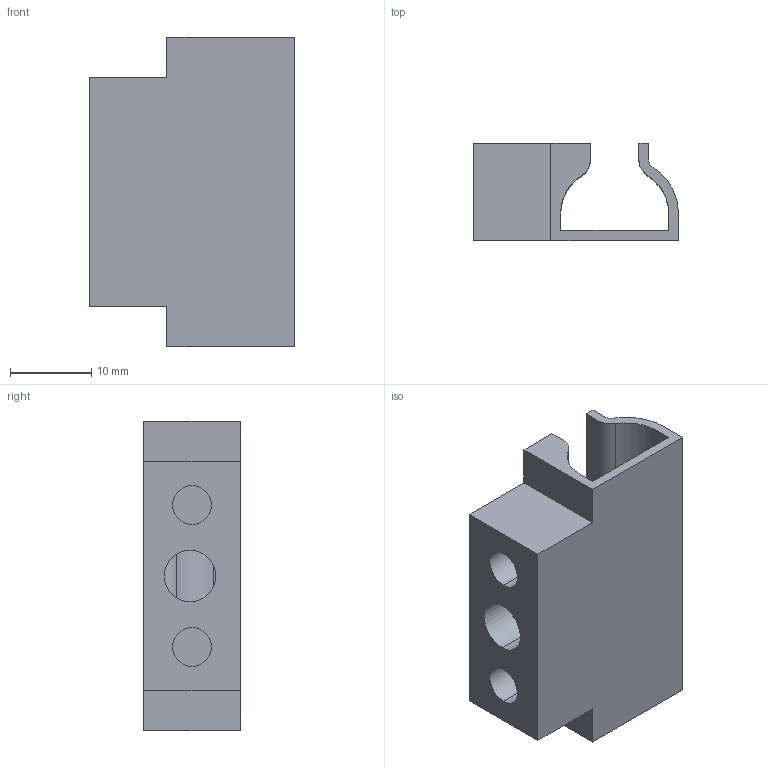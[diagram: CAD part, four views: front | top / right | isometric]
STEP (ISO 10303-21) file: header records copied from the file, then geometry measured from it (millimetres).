
FILE_DESCRIPTION (( 'STEP AP203' ), '1' );
FILE_NAME ('SLIM_EdgeLightBRKTStraightJoinType1.STEP', '2019-01-07T16:43:03', ( '' ), ( '' ), 'SwSTEP 2.0', 'SolidWorks 2017', '' );
FILE_SCHEMA (( 'CONFIG_CONTROL_DESIGN' ));
Length unit declared in the file: inch
Products named in the file (1): SLIM_EdgeLightBRKTStraightJoinType1
Bounding box: 25.23 x 11.95 x 38.1 mm (x, y, z)
Volume: 4890.4 mm3; surface area: 4550.7 mm2
Topology: 1 solids, 1 shells, 39 faces, 102 edges, 66 vertices
Faces by surface type: plane 19, cylinder 14, bspline 4, torus 2
Entity records: 1497 total; most frequent: CARTESIAN_POINT 458, ORIENTED_EDGE 204, DIRECTION 196, EDGE_CURVE 102, AXIS2_PLACEMENT_3D 68, VERTEX_POINT 66, VECTOR 60, LINE 60
